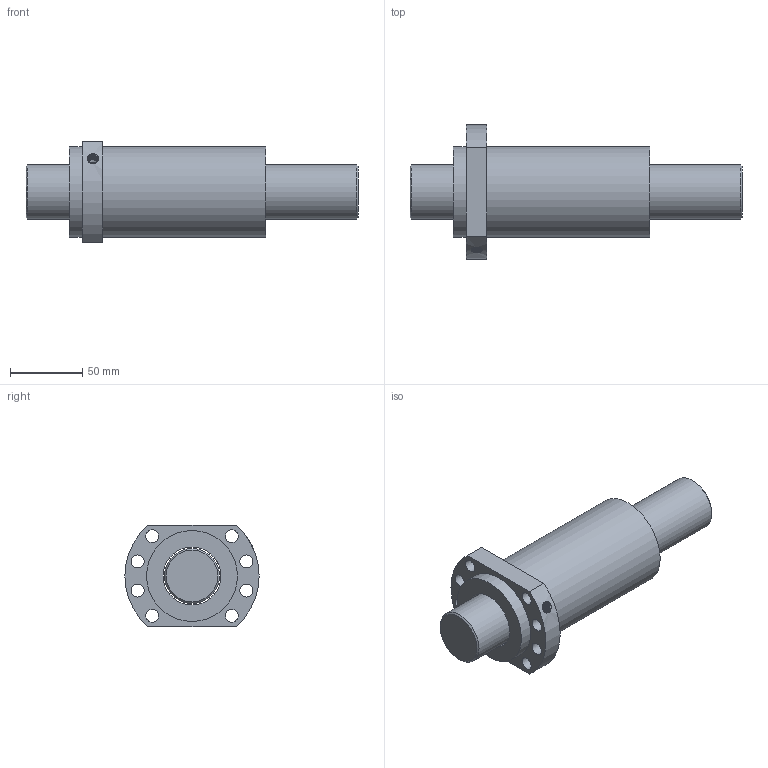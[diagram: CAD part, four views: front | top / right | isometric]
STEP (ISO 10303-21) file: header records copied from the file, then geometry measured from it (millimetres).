
FILE_DESCRIPTION(/* description */ ('Unknown','CAx-IF Rec.Pracs.---Representation and Presentation of Product Manufacturing Information (PMI)---4.0---2014-10-13','CAx-IF Rec.Pracs.---3D Tessellated Geometry---0.4---2014-09-14','2;1'),/* implementation_level */ '2;1');
FILE_NAME(/* name */ 'SFA4040-2.8',/* time_stamp */ '2020-12-08T11:37:48+08:00',/* author */ ('Unknown'),/* organization */ ('Unknown'),/* preprocessor_version */ 'ST-DEVELOPER v16.7',/* originating_system */ 'Solid Edge',/* authorisation */ 'Unknown');
FILE_SCHEMA (('AP242_MANAGED_MODEL_BASED_3D_ENGINEERING_MIM_LF { 1 0 10303 442 1 1 4 }'));
Length unit declared in the file: millimetre
Products named in the file (1): SFA4040-2.8
Bounding box: 230 x 93 x 70 mm (x, y, z)
Volume: 543998.7 mm3; surface area: 86537.2 mm2
Topology: 2 solids, 2 shells, 32 faces, 76 edges, 50 vertices
Faces by surface type: cylinder 18, plane 9, cone 3, bspline 2
Full cylindrical faces by diameter (mm): 4 x1, 6.917 x1, 9 x8, 38 x1, 40 x1, 63 x2
Entity records: 2736 total; most frequent: CARTESIAN_POINT 1976, DIRECTION 146, ORIENTED_EDGE 108, EDGE_LOOP 71, FACE_BOUND 71, AXIS2_PLACEMENT_3D 70, EDGE_CURVE 54, VERTEX_POINT 45
